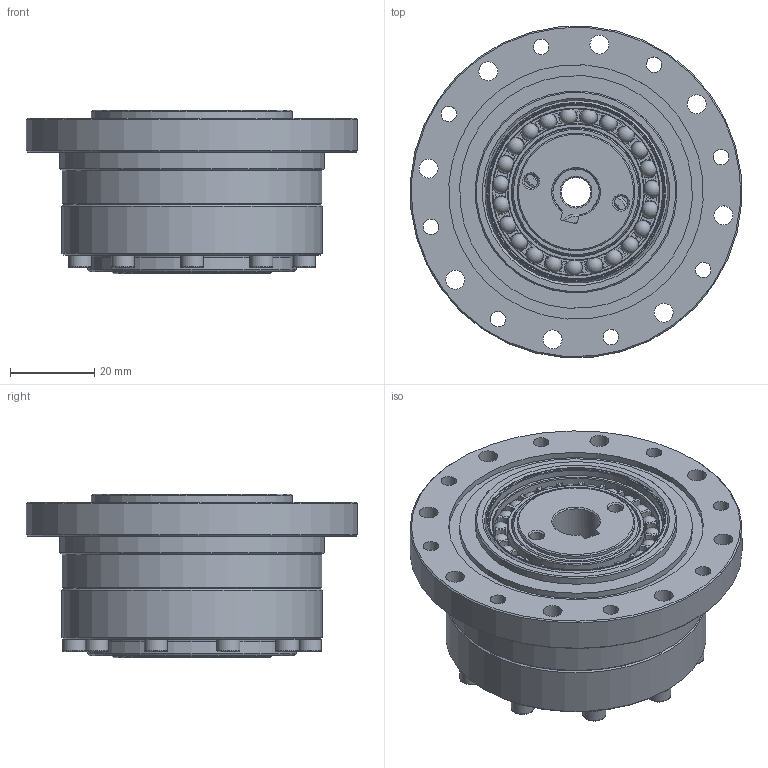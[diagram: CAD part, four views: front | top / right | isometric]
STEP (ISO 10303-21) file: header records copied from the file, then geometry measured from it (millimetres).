
FILE_DESCRIPTION(/* description */ (''),/* implementation_level */ '2;1');
FILE_NAME(/* name */ 'FSG-17-XX-U-I_孔径11__stp.prt.stp',/* time_stamp */ '2025-02-05T10:05:43+08:00',/* author */ (''),/* organization */ (''),/* preprocessor_version */ 'ST-DEVELOPER v16.7',/* originating_system */ 'SIEMENS PLM Software NX 12.0',/* authorisation */ '');
FILE_SCHEMA (('AUTOMOTIVE_DESIGN { 1 0 10303 214 3 1 1 1 }'));
Length unit declared in the file: millimetre
Products named in the file (15): EB304206-17KCH-46298; EB304206-17KCH-04299; EB304206-17KCH-02300; EB304206-17KCH-01301; TC-38x47x4302; 钢轮FSG-17_stp303; O型密封圈47.6-45-0.75304; GB-T70.1-2000,M5x12305; GB-T70.1-2000,M3x16306; 柔轮垫块LSS-17307; 发生器FSG-17-XXDL-直径11_stp; 柔轮FSG-17_stp309; EB304206-17KCH_stp310; 交叉轴承LSS-17311; FSG-17-XX-U-I_孔径11__stp
Assembly tree (28 placements, depth 3):
  FSG-17-XX-U-I_孔径11__stp
    柔轮FSG-17_stp309
    交叉轴承LSS-17311
      TC-38x47x4302
    EB304206-17KCH_stp310
      EB304206-17KCH-01301
      EB304206-17KCH-02300
      EB304206-17KCH-04299
      EB304206-17KCH-46298
    发生器FSG-17-XXDL-直径11_stp
    柔轮垫块LSS-17307
    GB-T70.1-2000,M3x16306  x10
    GB-T70.1-2000,M5x12305  x6
    O型密封圈47.6-45-0.75304
    钢轮FSG-17_stp303
Bounding box: 78.81 x 78.81 x 39 mm (x, y, z)
Volume: 88656.3 mm3; surface area: 63145.3 mm2
Topology: 50 solids, 50 shells, 911 faces, 1973 edges, 1156 vertices
Faces by surface type: plane 335, cone 257, cylinder 192, torus 102, sphere 23, bspline 2
Full cylindrical faces by diameter (mm): 2.5 x10, 2.874 x10, 3.3 x2, 3.5 x10, 3.7 x8, 4.2 x12, 4.5 x8, 4.826 x6, 5.5 x22, 7 x1, 8.5 x6, 10 x3, 16 x1, 27.2 x1, 28 x1, 28.8 x1, 29 x1, 30.3 x2, 32.57 x2, 33.6 x1, 33.8 x1, 36 x1, 37 x1, 37.9 x1, 38 x2, 38.4 x1, 39.7 x2, 41.722 x2, 42 x2, 42.466 x1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
Entity records: 17705 total; most frequent: CARTESIAN_POINT 4570, DIRECTION 2623, ORIENTED_EDGE 1954, AXIS2_PLACEMENT_3D 1198, EDGE_CURVE 977, EDGE_LOOP 853, VERTEX_POINT 735, CIRCLE 638
